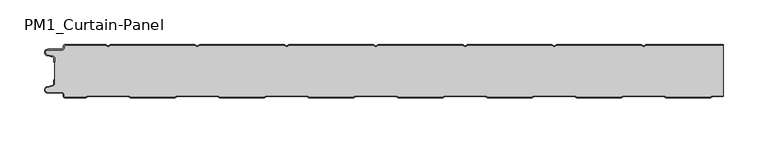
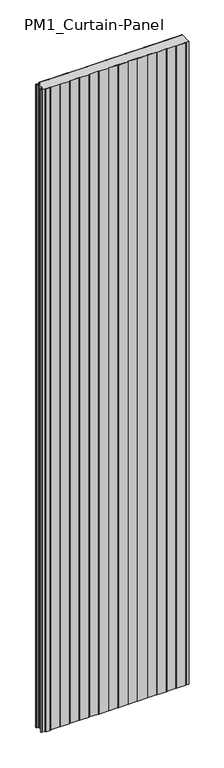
"""IFC4 building model written with IfcOpenShell, lengths in millimetres: plate geometry, PM1_Curtain-Panel : ACH_PM1_Stone-wool-Panel_60M."""

from ifc_helpers import new_model, si_unit, point, frame_2d, origin, origin_with_axes, place, context, project, spatial, polyline, circle_curve, trimmed, segment, composite_curve, outline, extrude, source, transform, mapped, element, save


def pm1_curtain_panel_331eded3(model_context):
    return source(origin(), model_context, "Body", "SweptSolid", [
        extrude(outline(composite_curve([segment(trimmed(circle_curve(frame_2d((-377.0, -15.878557)), 2.0), [point((-375.0, -15.878557))], [point((-376.5500978, -13.9298169))], True, "CARTESIAN"), True, "CONTINUOUS"), segment(polyline([(-376.5500978, -13.9298169), (-382.7098239, -12.507732)]), True, "CONTINUOUS"), segment(trimmed(circle_curve(frame_2d((-381.9, -9.0)), 3.6), [point((-382.7098239, -12.507732))], [point((-381.9, -5.4))], False, "CARTESIAN"), True, "CONTINUOUS"), segment(polyline([(-381.9, -5.4), (-366.4, -5.4)]), True, "CONTINUOUS"), segment(trimmed(circle_curve(frame_2d((-366.4, -3.4)), 2.0), [point((-366.4, -5.4))], [point((-364.4, -3.4))], True, "CARTESIAN"), True, "CONTINUOUS"), segment(polyline([(-364.4, -3.4), (-364.4, -2.0)]), True, "CONTINUOUS"), segment(trimmed(circle_curve(frame_2d((-362.4, -2.0)), 2.0), [point((-364.4, -2.0))], [point((-362.4, 0.0))], False, "CARTESIAN"), True, "CONTINUOUS"), segment(polyline([(-362.4, 0.0), (-317.0999995, 0.0), (-314.4, -1.5588455), (-311.7000005, 0.0), (-217.0999995, 0.0), (-214.4, -1.5588455), (-211.7000005, 0.0), (-117.0999995, 0.0), (-114.4, -1.5588455), (-111.7000005, 0.0), (-17.0999995, 0.0), (-14.4, -1.5588455), (-11.7000005, 0.0), (82.9000005, 0.0), (85.6, -1.5588455), (88.2999995, 0.0), (182.9000005, 0.0), (185.6, -1.5588455), (188.2999995, 0.0), (282.9000005, 0.0), (285.6, -1.5588455), (288.2999995, 0.0), (375.0, 0.0), (375.0, -0.8), (288.5143588, -0.8), (285.6, -2.482606), (282.6856412, -0.8), (188.5143588, -0.8), (185.6, -2.482606), (182.6856412, -0.8), (88.5143588, -0.8), (85.6, -2.482606), (82.6856412, -0.8), (-11.4856412, -0.8), (-14.4, -2.482606), (-17.3143588, -0.8), (-111.4856412, -0.8), (-114.4, -2.482606), (-117.3143588, -0.8), (-211.4856412, -0.8), (-214.4, -2.482606), (-217.3143588, -0.8), (-311.4856412, -0.8), (-314.4, -2.482606), (-317.3143588, -0.8), (-362.4, -0.8)]), True, "CONTINUOUS"), segment(trimmed(circle_curve(frame_2d((-362.4, -2.0)), 1.2), [point((-362.4, -0.8))], [point((-363.6, -2.0))], True, "CARTESIAN"), True, "CONTINUOUS"), segment(polyline([(-363.6, -2.0), (-363.6, -3.4)]), True, "CONTINUOUS"), segment(trimmed(circle_curve(frame_2d((-366.4, -3.4)), 2.8), [point((-363.6, -3.4))], [point((-366.4, -6.2))], False, "CARTESIAN"), True, "CONTINUOUS"), segment(polyline([(-366.4, -6.2), (-381.9, -6.2)]), True, "CONTINUOUS"), segment(trimmed(circle_curve(frame_2d((-381.9, -9.0)), 2.8), [point((-381.9, -6.2))], [point((-382.529863, -11.7282362))], True, "CARTESIAN"), True, "CONTINUOUS"), segment(polyline([(-382.529863, -11.7282362), (-376.370137, -13.150321)]), True, "CONTINUOUS"), segment(trimmed(circle_curve(frame_2d((-377.0, -15.878557)), 2.8), [point((-376.370137, -13.150321))], [point((-374.2, -15.878557))], False, "CARTESIAN"), True, "CONTINUOUS"), segment(polyline([(-374.2, -15.878557), (-374.2, -20.0), (-375.0, -20.0), (-375.0, -15.878557)]), True, "CONTINUOUS")], self_intersect=False)), origin_with_axes(), (0.0, 0.0, 1.0), 3500.0),
        extrude(outline(composite_curve([segment(polyline([(-374.2, -44.121443), (-374.2, -15.8785573)]), True, "CONTINUOUS"), segment(trimmed(circle_curve(frame_2d((-377.0, -15.8785573)), 2.8), [point((-374.2, -15.8785573))], [point((-376.370137, -13.1503212))], True, "CARTESIAN"), True, "CONTINUOUS"), segment(polyline([(-376.370137, -13.1503212), (-382.5298631, -11.7282362)]), True, "CONTINUOUS"), segment(trimmed(circle_curve(frame_2d((-381.9, -9.0)), 2.8), [point((-382.5298631, -11.7282362))], [point((-381.9, -6.2))], False, "CARTESIAN"), True, "CONTINUOUS"), segment(polyline([(-381.9, -6.2), (-366.4000001, -6.2)]), True, "CONTINUOUS"), segment(trimmed(circle_curve(frame_2d((-366.4000001, -3.4)), 2.8), [point((-366.4000001, -6.2))], [point((-363.6000001, -3.4))], True, "CARTESIAN"), True, "CONTINUOUS"), segment(polyline([(-363.6000001, -3.4), (-363.6000001, -2.0)]), True, "CONTINUOUS"), segment(trimmed(circle_curve(frame_2d((-362.4000001, -2.0)), 1.2), [point((-363.6000001, -2.0))], [point((-362.4000001, -0.8))], False, "CARTESIAN"), True, "CONTINUOUS"), segment(polyline([(-362.4000001, -0.8), (-317.3143589, -0.8), (-314.4000001, -2.482606), (-311.4856412, -0.8), (-217.3143589, -0.8), (-214.4000001, -2.482606), (-211.4856412, -0.8), (-117.3143589, -0.8), (-114.4000001, -2.482606), (-111.4856412, -0.8), (-17.3143589, -0.8), (-14.4000001, -2.482606), (-11.4856412, -0.8), (82.6856411, -0.8), (85.5999999, -2.482606), (88.5143588, -0.8), (182.6856411, -0.8), (185.5999999, -2.482606), (188.5143588, -0.8), (282.6856411, -0.8), (285.5999999, -2.482606), (288.5143588, -0.8), (375.0, -0.8), (375.0, -57.7), (362.9837184, -57.7), (360.3856408, -59.2), (310.8105122, -59.2), (308.2124346, -57.7), (262.9837184, -57.7), (260.3856408, -59.2), (210.8105122, -59.2), (208.2124346, -57.7), (162.9837184, -57.7), (160.3856408, -59.2), (110.8105122, -59.2), (108.2124346, -57.7), (62.9837184, -57.7), (60.3856408, -59.2), (10.8105122, -59.2), (8.2124346, -57.7), (-37.0162816, -57.7), (-39.6143592, -59.2), (-89.1894878, -59.2), (-91.7875654, -57.7), (-137.0162816, -57.7), (-139.6143592, -59.2), (-189.1894878, -59.2), (-191.7875654, -57.7), (-237.0162816, -57.7), (-239.6143592, -59.2), (-289.1894878, -59.2), (-291.7875654, -57.7), (-337.0162816, -57.7), (-339.6143592, -59.2), (-362.4, -59.2)]), True, "CONTINUOUS"), segment(trimmed(circle_curve(frame_2d((-362.4, -58.0)), 1.2), [point((-362.4, -59.2))], [point((-363.6, -58.0))], False, "CARTESIAN"), True, "CONTINUOUS"), segment(polyline([(-363.6, -58.0), (-363.6, -56.5999998)]), True, "CONTINUOUS"), segment(trimmed(circle_curve(frame_2d((-366.4, -56.5999998)), 2.8), [point((-363.6, -56.5999998))], [point((-366.4, -53.7999998))], True, "CARTESIAN"), True, "CONTINUOUS"), segment(polyline([(-366.4, -53.7999998), (-381.9, -53.7999998)]), True, "CONTINUOUS"), segment(trimmed(circle_curve(frame_2d((-381.9, -51.0)), 2.7999998), [point((-381.9, -53.7999998))], [point((-382.529863, -48.271764))], False, "CARTESIAN"), True, "CONTINUOUS"), segment(polyline([(-382.529863, -48.271764), (-376.370137, -46.8496792)]), True, "CONTINUOUS"), segment(trimmed(circle_curve(frame_2d((-377.0, -44.121443)), 2.8), [point((-376.370137, -46.8496792))], [point((-374.2, -44.121443))], True, "CARTESIAN"), True, "CONTINUOUS")], self_intersect=False)), origin_with_axes(), (0.0, 0.0, 1.0), 3500.0),
        extrude(outline(composite_curve([segment(trimmed(circle_curve(frame_2d((-362.4, -58.0)), 2.0), [point((-362.4, -60.0))], [point((-364.4, -58.0))], False, "CARTESIAN"), True, "CONTINUOUS"), segment(polyline([(-364.4, -58.0), (-364.4, -56.6)]), True, "CONTINUOUS"), segment(trimmed(circle_curve(frame_2d((-366.4, -56.6)), 2.0), [point((-364.4, -56.6))], [point((-366.4, -54.6))], True, "CARTESIAN"), True, "CONTINUOUS"), segment(polyline([(-366.4, -54.6), (-381.9, -54.6)]), True, "CONTINUOUS"), segment(trimmed(circle_curve(frame_2d((-381.9, -51.0)), 3.6), [point((-381.9, -54.6))], [point((-382.7098239, -47.4922678))], False, "CARTESIAN"), True, "CONTINUOUS"), segment(polyline([(-382.7098239, -47.4922678), (-376.5500979, -46.070183)]), True, "CONTINUOUS"), segment(trimmed(circle_curve(frame_2d((-377.0, -44.121443)), 2.0), [point((-376.5500979, -46.070183))], [point((-375.0, -44.121443))], True, "CARTESIAN"), True, "CONTINUOUS"), segment(polyline([(-375.0, -44.121443), (-375.0, -40.0), (-374.2, -40.0), (-374.2, -44.121443)]), True, "CONTINUOUS"), segment(trimmed(circle_curve(frame_2d((-377.0, -44.121443)), 2.8), [point((-374.2, -44.121443))], [point((-376.370137, -46.8496792))], False, "CARTESIAN"), True, "CONTINUOUS"), segment(polyline([(-376.370137, -46.8496792), (-382.529863, -48.271764)]), True, "CONTINUOUS"), segment(trimmed(circle_curve(frame_2d((-381.9, -51.0)), 2.8), [point((-382.529863, -48.271764))], [point((-381.9, -53.8))], True, "CARTESIAN"), True, "CONTINUOUS"), segment(polyline([(-381.9, -53.8), (-366.4, -53.8)]), True, "CONTINUOUS"), segment(trimmed(circle_curve(frame_2d((-366.4, -56.6)), 2.8), [point((-366.4, -53.8))], [point((-363.6, -56.6))], False, "CARTESIAN"), True, "CONTINUOUS"), segment(polyline([(-363.6, -56.6), (-363.6, -58.0)]), True, "CONTINUOUS"), segment(trimmed(circle_curve(frame_2d((-362.4, -58.0)), 1.2), [point((-363.6, -58.0))], [point((-362.4, -59.2))], True, "CARTESIAN"), True, "CONTINUOUS"), segment(polyline([(-362.4, -59.2), (-339.6143592, -59.2), (-337.0162816, -57.7), (-291.7875654, -57.7), (-289.1894878, -59.2), (-239.6143592, -59.2), (-237.0162816, -57.7), (-191.7875654, -57.7), (-189.1894878, -59.2), (-139.6143592, -59.2), (-137.0162816, -57.7), (-91.7875654, -57.7), (-89.1894878, -59.2), (-39.6143592, -59.2), (-37.0162816, -57.7), (8.2124346, -57.7), (10.8105122, -59.2), (60.3856408, -59.2), (62.9837184, -57.7), (108.2124346, -57.7), (110.8105122, -59.2), (160.3856408, -59.2), (162.9837184, -57.7), (208.2124346, -57.7), (210.8105122, -59.2), (260.3856408, -59.2), (262.9837184, -57.7), (308.2124346, -57.7), (310.8105122, -59.2), (360.3856408, -59.2), (362.9837184, -57.7), (375.0, -57.7), (375.0, -58.5), (363.1980777, -58.5), (360.6000001, -60.0), (310.5961529, -60.0), (307.9980753, -58.5), (263.1980777, -58.5), (260.6000001, -60.0), (210.5961529, -60.0), (207.9980753, -58.5), (163.1980777, -58.5), (160.6000001, -60.0), (110.5961529, -60.0), (107.9980753, -58.5), (63.1980777, -58.5), (60.6000001, -60.0), (10.5961529, -60.0), (7.9980753, -58.5), (-36.8019223, -58.5), (-39.3999999, -60.0), (-89.4038471, -60.0), (-92.0019247, -58.5), (-136.8019223, -58.5), (-139.3999999, -60.0), (-189.4038471, -60.0), (-192.0019247, -58.5), (-236.8019223, -58.5), (-239.3999999, -60.0), (-289.4038471, -60.0), (-292.0019247, -58.5), (-336.8019223, -58.5), (-339.3999999, -60.0), (-362.4, -60.0)]), True, "CONTINUOUS")], self_intersect=False)), origin_with_axes(), (0.0, 0.0, 1.0), 3500.0),
    ])


if __name__ == "__main__":
    model = new_model("IFC4")
    model_context = context("Model", 3, world=origin())
    ifc_project = project(units=[si_unit("LENGTHUNIT", "METRE", prefix="MILLI")], contexts=[model_context])
    site = spatial("IfcSite", under=ifc_project)
    building = spatial("IfcBuilding", under=site)
    placement = place(None, origin())
    pm1_curtain_panel_shape = pm1_curtain_panel_331eded3(model_context)
    element("IfcPlate", 1, ObjectType="PM1_Curtain-Panel : ACH_PM1_Stone-wool-Panel_60M", at=placement, inside=building, context=model_context, shape_type="MappedRepresentation", body=[
        mapped(pm1_curtain_panel_shape, transform((0.0, 0.0, 0.0), x_axis=(1.0, 0.0, 0.0), y_axis=(0.0, 1.0, 0.0), z_axis=(0.0, 0.0, 1.0))),
    ])
    save(model, "model.ifc")
